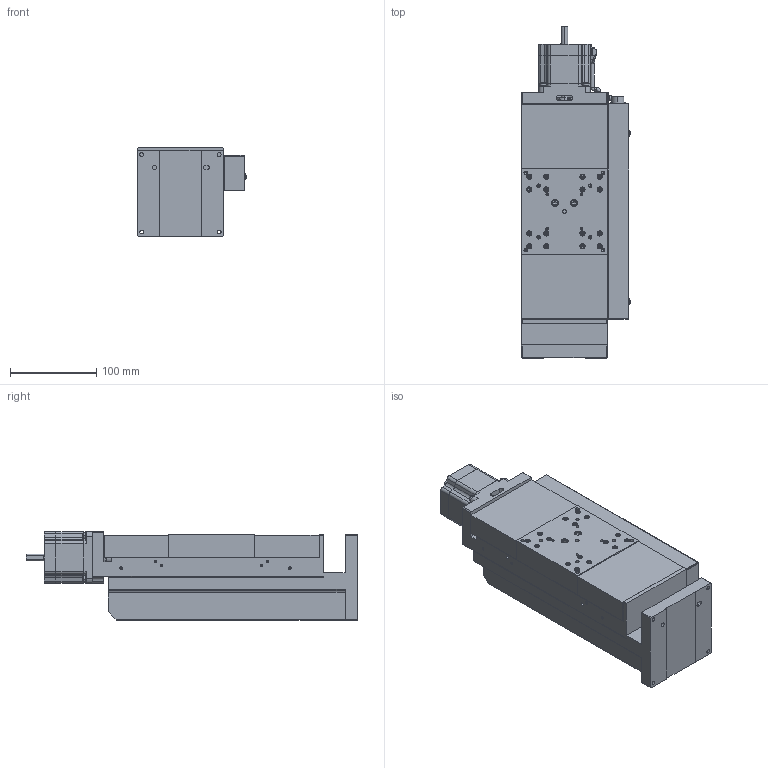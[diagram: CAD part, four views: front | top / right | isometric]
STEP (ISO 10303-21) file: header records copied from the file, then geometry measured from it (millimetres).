
FILE_DESCRIPTION (( 'STEP AP203' ), '1' );
FILE_NAME ('ZA10A-X1T01-R.STEP', '2019-02-25T05:51:05', ( '' ), ( '' ), 'SwSTEP 2.0', 'SolidWorks 2018', '' );
FILE_SCHEMA (( 'CONFIG_CONTROL_DESIGN' ));
Length unit declared in the file: millimetre
Products named in the file (6): bellows-Part-1; bellows; base; bellows-Part-2; ZA10A-X1T01-R; table
Assembly tree (5 placements, depth 3):
  ZA10A-X1T01-R
    bellows
      bellows-Part-1
      bellows-Part-2
    table
    base
Bounding box: 126.89 x 385.5 x 103 mm (x, y, z)
Volume: 2060399.4 mm3; surface area: 390180.2 mm2
Topology: 4 solids, 6 shells, 2695 faces, 6513 edges, 3906 vertices
Faces by surface type: plane 1568, cylinder 641, cone 428, bspline 20, sphere 20, torus 18
Entity records: 78248 total; most frequent: CARTESIAN_POINT 14129, DIRECTION 13801, ORIENTED_EDGE 12722, EDGE_CURVE 6361, AXIS2_PLACEMENT_3D 4856, VECTOR 4089, LINE 4089, VERTEX_POINT 3906
